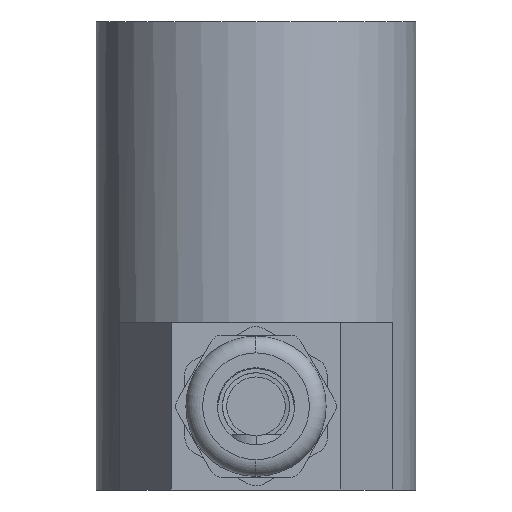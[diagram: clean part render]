
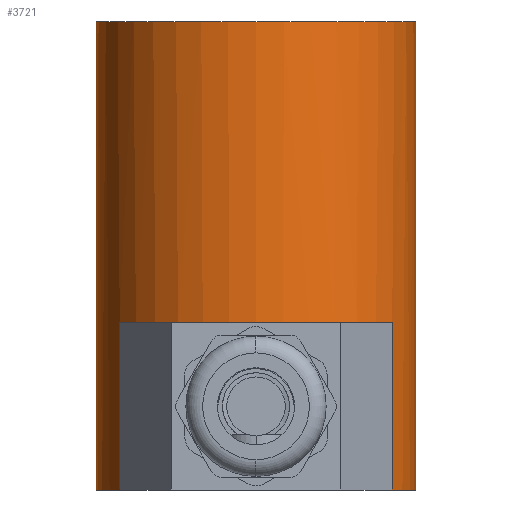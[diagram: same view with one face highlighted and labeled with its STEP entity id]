
A CAD part, front view. The second image highlights one B-rep face of the part: STEP entity #3721.
In plain terms, the highlighted cylindrical face has radius 19.1 mm (diameter 38.2 mm), a partial arc.
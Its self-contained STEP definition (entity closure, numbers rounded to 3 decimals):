
#3634 = VERTEX_POINT ( 'NONE', #11837 ) ;
#3635 = EDGE_CURVE ( 'NONE', #3875, #3636, #11878, .T. ) ;
#3636 = VERTEX_POINT ( 'NONE', #11874 ) ;
#3652 = EDGE_CURVE ( 'NONE', #3875, #3706, #11807, .T. ) ;
#3653 = ORIENTED_EDGE ( 'NONE', *, *, #3712, .F. ) ;
#3663 = ORIENTED_EDGE ( 'NONE', *, *, #3664, .T. ) ;
#3664 = EDGE_CURVE ( 'NONE', #3775, #3665, #11835, .T. ) ;
#3665 = VERTEX_POINT ( 'NONE', #11826 ) ;
#3688 = EDGE_CURVE ( 'NONE', #3634, #3789, #12086, .T. ) ;
#3702 = ORIENTED_EDGE ( 'NONE', *, *, #3703, .T. ) ;
#3703 = EDGE_CURVE ( 'NONE', #3665, #3634, #11986, .T. ) ;
#3705 = ORIENTED_EDGE ( 'NONE', *, *, #3652, .T. ) ;
#3706 = VERTEX_POINT ( 'NONE', #11981 ) ;
#3712 = EDGE_CURVE ( 'NONE', #3774, #3706, #12080, .T. ) ;
#3721 = ADVANCED_FACE ( 'NONE', ( #12060 ), #12059, .T. ) ;
#3722 = EDGE_LOOP ( 'NONE', ( #3723, #3705, #3653, #3727, #3663, #3702, #3725, #3726 ) ) ;
#3723 = ORIENTED_EDGE ( 'NONE', *, *, #3635, .F. ) ;
#3724 = EDGE_CURVE ( 'NONE', #3636, #3789, #12033, .T. ) ;
#3725 = ORIENTED_EDGE ( 'NONE', *, *, #3688, .T. ) ;
#3726 = ORIENTED_EDGE ( 'NONE', *, *, #3724, .F. ) ;
#3727 = ORIENTED_EDGE ( 'NONE', *, *, #3728, .T. ) ;
#3728 = EDGE_CURVE ( 'NONE', #3774, #3775, #12029, .T. ) ;
#3774 = VERTEX_POINT ( 'NONE', #12102 ) ;
#3775 = VERTEX_POINT ( 'NONE', #12100 ) ;
#3789 = VERTEX_POINT ( 'NONE', #12000 ) ;
#3875 = VERTEX_POINT ( 'NONE', #12597 ) ;
#11803 = DIRECTION ( 'NONE',  ( 1., 0., 0. ) ) ;
#11804 = DIRECTION ( 'NONE',  ( 0., 0., 1. ) ) ;
#11805 = CARTESIAN_POINT ( 'NONE',  ( 0., 0., 0. ) ) ;
#11806 = AXIS2_PLACEMENT_3D ( 'NONE', #11805, #11804, #11803 ) ;
#11807 = CIRCLE ( 'NONE', #11806, 19.1 ) ;
#11826 = CARTESIAN_POINT ( 'NONE',  ( 16.273, -10., 0. ) ) ;
#11827 = DIRECTION ( 'NONE',  ( 0., 0., -1. ) ) ;
#11828 = VECTOR ( 'NONE', #11827, 1000. ) ;
#11829 = CARTESIAN_POINT ( 'NONE',  ( 16.273, -10., 20. ) ) ;
#11835 = LINE ( 'NONE', #11829, #11828 ) ;
#11837 = CARTESIAN_POINT ( 'NONE',  ( 19.1, 0., 0. ) ) ;
#11874 = CARTESIAN_POINT ( 'NONE',  ( -19.1, 0., 55.9 ) ) ;
#11875 = DIRECTION ( 'NONE',  ( 0., 0., 1. ) ) ;
#11876 = VECTOR ( 'NONE', #11875, 1000. ) ;
#11877 = CARTESIAN_POINT ( 'NONE',  ( -19.1, 0., 45.075 ) ) ;
#11878 = LINE ( 'NONE', #11877, #11876 ) ;
#11939 = VECTOR ( 'NONE', #12127, 1000. ) ;
#11981 = CARTESIAN_POINT ( 'NONE',  ( -16.273, -10., 0. ) ) ;
#11982 = DIRECTION ( 'NONE',  ( 1., 0., 0. ) ) ;
#11983 = DIRECTION ( 'NONE',  ( 0., 0., 1. ) ) ;
#11984 = CARTESIAN_POINT ( 'NONE',  ( 0., 0., 0. ) ) ;
#11985 = AXIS2_PLACEMENT_3D ( 'NONE', #11984, #11983, #11982 ) ;
#11986 = CIRCLE ( 'NONE', #11985, 19.1 ) ;
#12000 = CARTESIAN_POINT ( 'NONE',  ( 19.1, 0., 55.9 ) ) ;
#12025 = DIRECTION ( 'NONE',  ( -1., 0., 0. ) ) ;
#12026 = DIRECTION ( 'NONE',  ( 0., 0., 1. ) ) ;
#12027 = CARTESIAN_POINT ( 'NONE',  ( 0., 0., 20. ) ) ;
#12028 = AXIS2_PLACEMENT_3D ( 'NONE', #12027, #12026, #12025 ) ;
#12029 = CIRCLE ( 'NONE', #12028, 19.1 ) ;
#12030 = DIRECTION ( 'NONE',  ( 1., 0., 0. ) ) ;
#12031 = DIRECTION ( 'NONE',  ( 0., 0., 1. ) ) ;
#12032 = AXIS2_PLACEMENT_3D ( 'NONE', #12058, #12031, #12030 ) ;
#12033 = CIRCLE ( 'NONE', #12032, 19.1 ) ;
#12034 = DIRECTION ( 'NONE',  ( 1., 0., 0. ) ) ;
#12035 = DIRECTION ( 'NONE',  ( 0., 0., 1. ) ) ;
#12036 = AXIS2_PLACEMENT_3D ( 'NONE', #12065, #12035, #12034 ) ;
#12058 = CARTESIAN_POINT ( 'NONE',  ( 0., 0., 55.9 ) ) ;
#12059 = CYLINDRICAL_SURFACE ( 'NONE', #12036, 19.1 ) ;
#12060 = FACE_OUTER_BOUND ( 'NONE', #3722, .T. ) ;
#12065 = CARTESIAN_POINT ( 'NONE',  ( 0., 0., 45.075 ) ) ;
#12077 = DIRECTION ( 'NONE',  ( 0., 0., -1. ) ) ;
#12078 = VECTOR ( 'NONE', #12077, 1000. ) ;
#12079 = CARTESIAN_POINT ( 'NONE',  ( -16.273, -10., 20. ) ) ;
#12080 = LINE ( 'NONE', #12079, #12078 ) ;
#12086 = LINE ( 'NONE', #12126, #11939 ) ;
#12100 = CARTESIAN_POINT ( 'NONE',  ( 16.273, -10., 20. ) ) ;
#12102 = CARTESIAN_POINT ( 'NONE',  ( -16.273, -10., 20. ) ) ;
#12126 = CARTESIAN_POINT ( 'NONE',  ( 19.1, 0., 45.075 ) ) ;
#12127 = DIRECTION ( 'NONE',  ( 0., 0., 1. ) ) ;
#12597 = CARTESIAN_POINT ( 'NONE',  ( -19.1, 0., 0. ) ) ;
